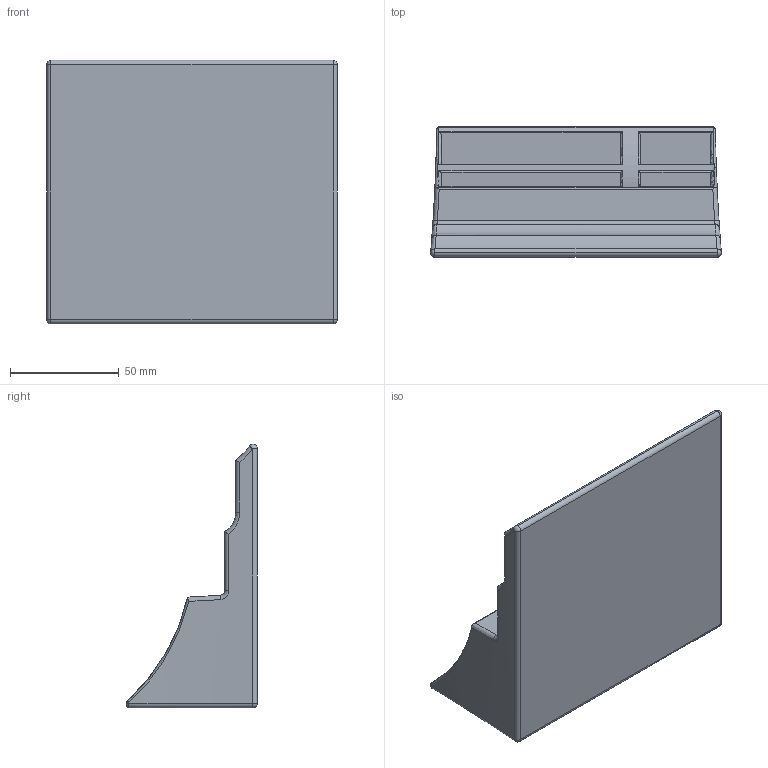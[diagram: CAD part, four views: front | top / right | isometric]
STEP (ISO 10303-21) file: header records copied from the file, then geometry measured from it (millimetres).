
FILE_DESCRIPTION (( 'STEP AP203' ), '1' );
FILE_NAME ('Storage Slots 2.STEP', '2025-02-17T14:28:47', ( '' ), ( '' ), 'SwSTEP 2.0', 'SolidWorks 2024', '' );
FILE_SCHEMA (( 'CONFIG_CONTROL_DESIGN' ));
Length unit declared in the file: millimetre
Products named in the file (1): Storage Slots 2
Bounding box: 133.65 x 60 x 121.19 mm (x, y, z)
Volume: 273886.7 mm3; surface area: 71629 mm2
Topology: 1 solids, 1 shells, 245 faces, 570 edges, 345 vertices
Faces by surface type: plane 115, cylinder 102, bspline 12, torus 10, sphere 6
Entity records: 7592 total; most frequent: CARTESIAN_POINT 2349, ORIENTED_EDGE 1130, DIRECTION 955, EDGE_CURVE 565, VECTOR 371, LINE 371, VERTEX_POINT 344, AXIS2_PLACEMENT_3D 292
